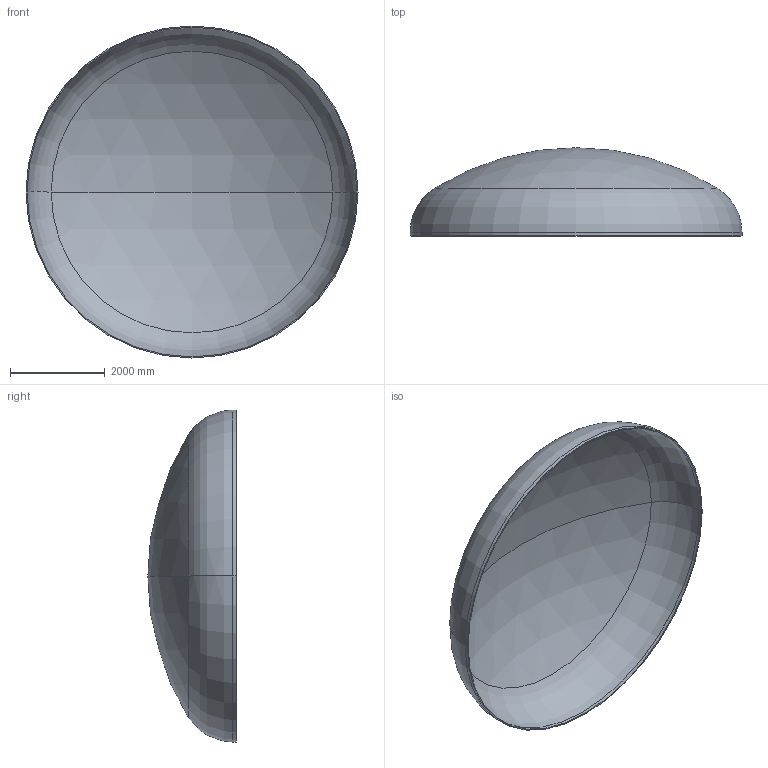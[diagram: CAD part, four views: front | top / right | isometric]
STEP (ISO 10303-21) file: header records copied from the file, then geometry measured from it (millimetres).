
FILE_DESCRIPTION (( 'STEP AP203' ), '1' );
FILE_NAME ('DIN 28013 Korbbogenform_-_Boden DIN 28013 - 7000 x 70 - I - s=23.step', '2016-07-04T10:45:58', ( '' ), ( '' ), 'SwSTEP 2.0', 'SolidWorks 2013', '' );
FILE_SCHEMA (( 'CONFIG_CONTROL_DESIGN' ));
Length unit declared in the file: millimetre
Products named in the file (1): DIN 28013 Korbbogenform_-_Boden DIN 28013 - 7000 x 70 - I - s=23
Bounding box: 7000 x 1860.93 x 7000 mm (x, y, z)
Volume: 1256405906.9 mm3; surface area: 109757885.7 mm2
Topology: 1 solids, 1 shells, 13 faces, 24 edges, 14 vertices
Faces by surface type: torus 4, cylinder 4, sphere 4, plane 1
Entity records: 407 total; most frequent: DIRECTION 72, CARTESIAN_POINT 52, ORIENTED_EDGE 48, AXIS2_PLACEMENT_3D 34, EDGE_CURVE 24, CIRCLE 20, VERTEX_POINT 14, EDGE_LOOP 14
